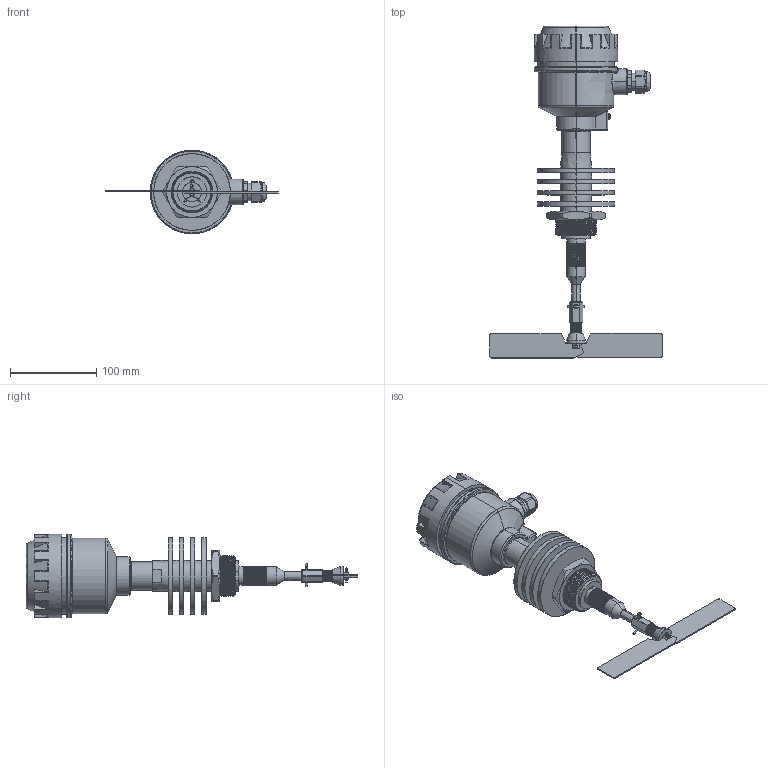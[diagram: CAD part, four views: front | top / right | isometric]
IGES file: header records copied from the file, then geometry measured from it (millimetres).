
Start section: SolidWorks IGES file using analytic representation for surfaces
Global section: file name: C:\Users\Äîì\Desktop\Äàò÷èêè ìîäåëè\IL-SAA-N-HT\Äëÿ Êîìïàñà\IL-SAA-N-HT ñêëàäíàÿ ëîïàñòü - ð.IGS; native system: SolidWorks 2020; preprocessor: SolidWorks 2020; author: Äîì; date: 201226.225221; units: millimetre
Bounding box: 200 x 385.2 x 97 mm (x, y, z)
Surface area: 170023.9 mm2 (no closed solid volume)
Topology: 0 solids, 0 shells, 733 faces, 9609 edges, 9586 vertices
Faces by surface type: bspline 367, revolution 366
